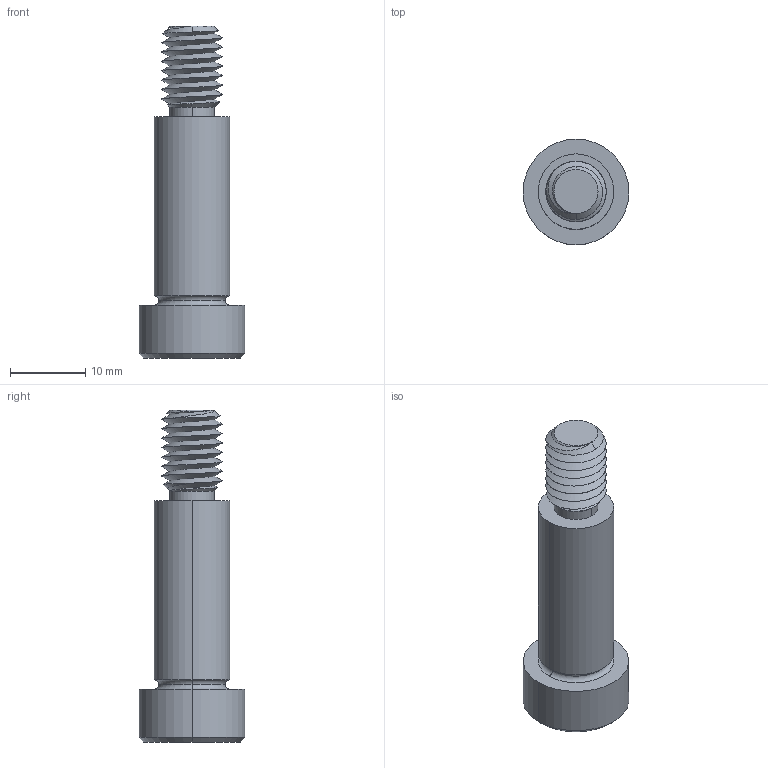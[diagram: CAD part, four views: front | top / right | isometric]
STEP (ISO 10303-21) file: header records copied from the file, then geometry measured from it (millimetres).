
FILE_DESCRIPTION (( 'STEP AP203' ), '1' );
FILE_NAME ('P0130.100-025-B8.step', '2021-11-09T21:53:20', ( '' ), ( '' ), 'SwSTEP 2.0', 'SolidWorks 2019', '' );
FILE_SCHEMA (( 'CONFIG_CONTROL_DESIGN' ));
Length unit declared in the file: millimetre
Products named in the file (1): P0130.100-025-B8
Bounding box: 14 x 14 x 44 mm (x, y, z)
Volume: 3330.6 mm3; surface area: 1963.3 mm2
Topology: 1 solids, 1 shells, 58 faces, 136 edges, 81 vertices
Faces by surface type: cylinder 21, plane 16, cone 15, torus 4, bspline 2
Entity records: 4214 total; most frequent: CARTESIAN_POINT 2911, ORIENTED_EDGE 268, DIRECTION 241, EDGE_CURVE 134, AXIS2_PLACEMENT_3D 97, VERTEX_POINT 81, EDGE_LOOP 61, FACE_OUTER_BOUND 58
